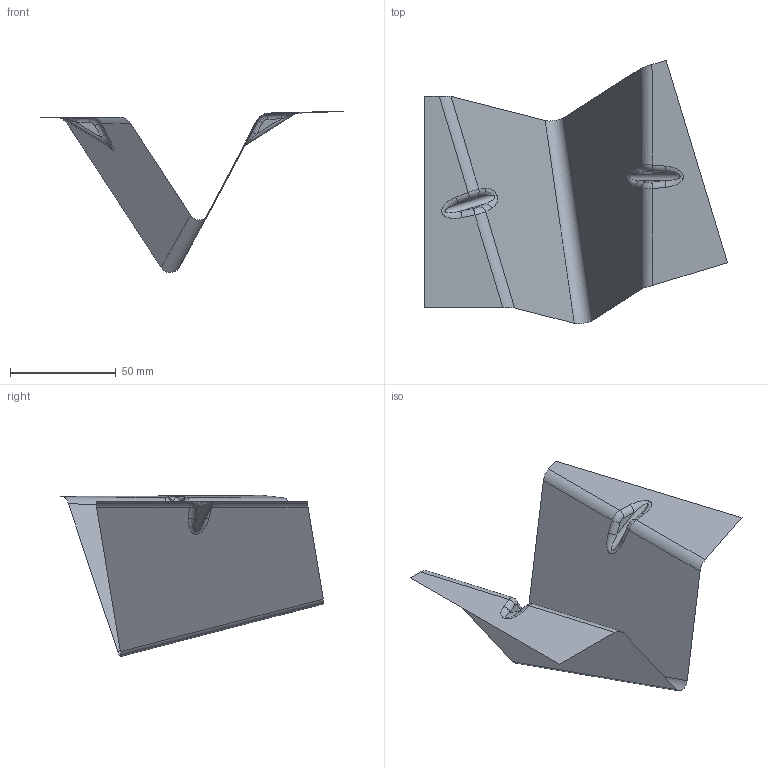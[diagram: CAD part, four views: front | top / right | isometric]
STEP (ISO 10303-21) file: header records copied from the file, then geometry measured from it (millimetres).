
FILE_DESCRIPTION(('CATIA V5 STEP Exchange'),'2;1');
FILE_NAME('C:\_Andres\UNIVERSIDAD\IQS\ASIGNATURAS\DAO\EXF\EXF-16172c\2inicio\Altirriba_Cusco_Ej03_v1.stp','2017-03-05T19:32:00+00:00',('none'),('none'),'CATIA Version 5-6 Release 2014 SP1 HF18','CATIA V5 STEP AP203','none');
FILE_SCHEMA(('CONFIG_CONTROL_DESIGN'));
Length unit declared in the file: millimetre
Products named in the file (1): Altirriba_Cusco_Ej03_v1
Bounding box: 143.22 x 124.44 x 76.2 mm (x, y, z)
Surface area: 20437.8 mm2 (no closed solid volume)
Topology: 0 solids, 1 shells, 31 faces, 78 edges, 48 vertices
Faces by surface type: cylinder 15, plane 8, bspline 8
Entity records: 2233 total; most frequent: CARTESIAN_POINT 1560, ORIENTED_EDGE 140, DIRECTION 90, EDGE_CURVE 78, VERTEX_POINT 48, VECTOR 40, LINE 40, ADVANCED_FACE 31
